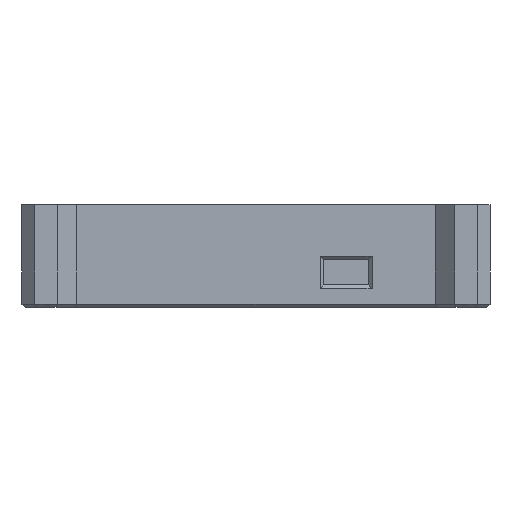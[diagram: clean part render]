
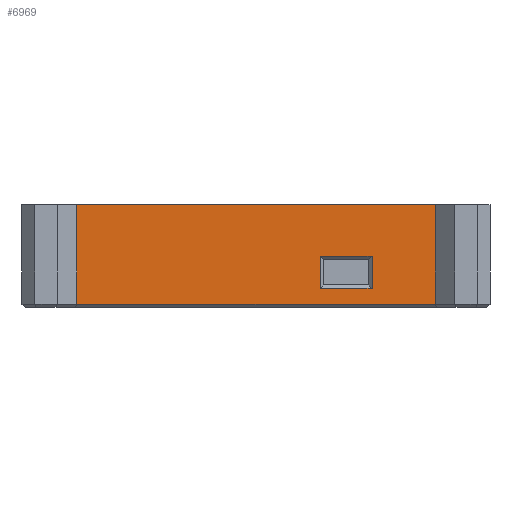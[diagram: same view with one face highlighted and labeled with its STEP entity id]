
A CAD part, front view. The second image highlights one B-rep face of the part: STEP entity #6969.
In plain terms, the highlighted planar face has unit normal (0, -1, 0).
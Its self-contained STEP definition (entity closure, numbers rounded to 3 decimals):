
#1555=ORIENTED_EDGE('',*,*,#2721,.F.);
#1556=ORIENTED_EDGE('',*,*,#2544,.T.);
#1557=ORIENTED_EDGE('',*,*,#2722,.T.);
#1558=ORIENTED_EDGE('',*,*,#2197,.T.);
#1559=ORIENTED_EDGE('',*,*,#2590,.T.);
#1560=ORIENTED_EDGE('',*,*,#2595,.T.);
#1561=ORIENTED_EDGE('',*,*,#2597,.T.);
#1562=ORIENTED_EDGE('',*,*,#2591,.T.);
#2197=EDGE_CURVE('',#3163,#3162,#3788,.T.);
#2544=EDGE_CURVE('',#3381,#3379,#4121,.T.);
#2590=EDGE_CURVE('',#3404,#3406,#4167,.T.);
#2591=EDGE_CURVE('',#3407,#3404,#4168,.T.);
#2595=EDGE_CURVE('',#3406,#3410,#4172,.T.);
#2597=EDGE_CURVE('',#3410,#3407,#4174,.T.);
#2721=EDGE_CURVE('',#3381,#3162,#4298,.T.);
#2722=EDGE_CURVE('',#3379,#3163,#4299,.T.);
#3162=VERTEX_POINT('',#9533);
#3163=VERTEX_POINT('',#9535);
#3379=VERTEX_POINT('',#10202);
#3381=VERTEX_POINT('',#10210);
#3404=VERTEX_POINT('',#10299);
#3406=VERTEX_POINT('',#10303);
#3407=VERTEX_POINT('',#10307);
#3410=VERTEX_POINT('',#10314);
#3788=LINE('',#9534,#4733);
#4121=LINE('',#10211,#5066);
#4167=LINE('',#10304,#5112);
#4168=LINE('',#10306,#5113);
#4172=LINE('',#10315,#5117);
#4174=LINE('',#10318,#5119);
#4298=LINE('',#10548,#5243);
#4299=LINE('',#10550,#5244);
#4733=VECTOR('',#7649,1000.);
#5066=VECTOR('',#8232,1000.);
#5112=VECTOR('',#8322,1000.);
#5113=VECTOR('',#8325,1000.);
#5117=VECTOR('',#8331,1000.);
#5119=VECTOR('',#8335,1000.);
#5243=VECTOR('',#8555,1000.);
#5244=VECTOR('',#8558,1000.);
#5804=EDGE_LOOP('',(#1555,#1556,#1557,#1558));
#5805=EDGE_LOOP('',(#1559,#1560,#1561,#1562));
#6235=FACE_BOUND('',#5804,.T.);
#6236=FACE_BOUND('',#5805,.T.);
#6623=PLANE('',#7358);
#6969=ADVANCED_FACE('',(#6235,#6236),#6623,.T.);
#7358=AXIS2_PLACEMENT_3D('',#10942,#8943,#8944);
#7649=DIRECTION('',(-1.,0.,0.));
#8232=DIRECTION('',(1.,0.,0.));
#8322=DIRECTION('',(0.,0.,1.));
#8325=DIRECTION('',(-1.,0.,0.));
#8331=DIRECTION('',(1.,0.,0.));
#8335=DIRECTION('',(0.,0.,-1.));
#8555=DIRECTION('',(0.,0.,1.));
#8558=DIRECTION('',(0.,0.,1.));
#8943=DIRECTION('',(0.,-1.,0.));
#8944=DIRECTION('',(1.,0.,0.));
#9533=CARTESIAN_POINT('',(-55.8,-111.7,0.));
#9534=CARTESIAN_POINT('',(-64.8,-111.7,0.));
#9535=CARTESIAN_POINT('',(55.8,-111.7,0.));
#10202=CARTESIAN_POINT('',(55.8,-111.7,-31.));
#10210=CARTESIAN_POINT('',(-55.8,-111.7,-31.));
#10211=CARTESIAN_POINT('',(55.8,-111.7,-31.));
#10299=CARTESIAN_POINT('',(20.1,-111.7,-26.));
#10303=CARTESIAN_POINT('',(20.1,-111.7,-16.));
#10304=CARTESIAN_POINT('',(20.1,-111.7,-17.));
#10306=CARTESIAN_POINT('',(21.1,-111.7,-26.));
#10307=CARTESIAN_POINT('',(36.1,-111.7,-26.));
#10314=CARTESIAN_POINT('',(36.1,-111.7,-16.));
#10315=CARTESIAN_POINT('',(35.1,-111.7,-16.));
#10318=CARTESIAN_POINT('',(36.1,-111.7,-25.));
#10548=CARTESIAN_POINT('',(-55.8,-111.7,-32.));
#10550=CARTESIAN_POINT('',(55.8,-111.7,-32.));
#10942=CARTESIAN_POINT('',(-64.8,-111.7,-32.));
